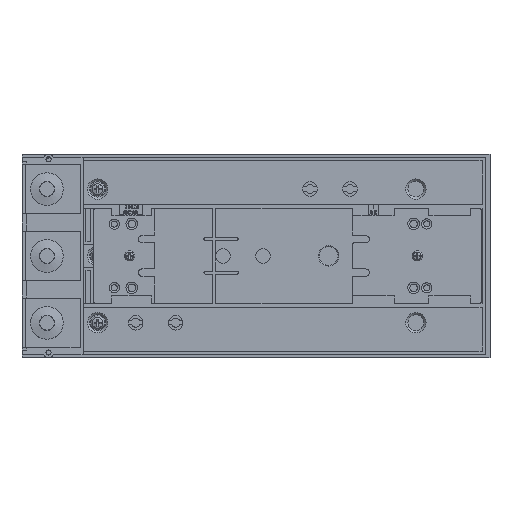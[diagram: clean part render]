
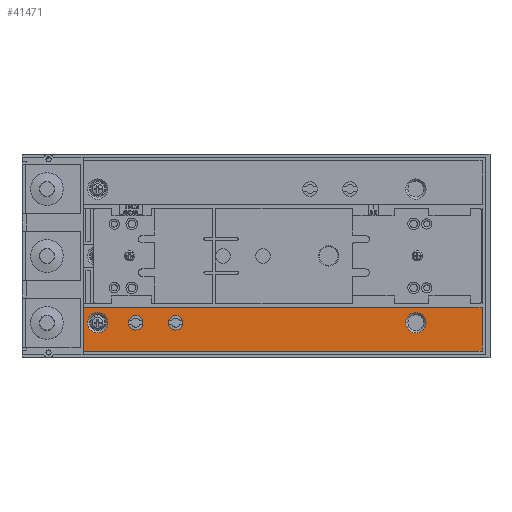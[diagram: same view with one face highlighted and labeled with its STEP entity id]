
A CAD part, top view. The second image highlights one B-rep face of the part: STEP entity #41471.
In plain terms, the highlighted planar face has unit normal (0, 0, 1).
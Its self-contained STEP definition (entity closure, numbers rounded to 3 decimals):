
#332 = CARTESIAN_POINT ( 'NONE',  ( -50.25, -46., 39.25 ) ) ;
#682 = CARTESIAN_POINT ( 'NONE',  ( 117., -46., 39.25 ) ) ;
#1195 = VERTEX_POINT ( 'NONE', #43297 ) ;
#1371 = VECTOR ( 'NONE', #11580, 1000. ) ;
#1403 = CARTESIAN_POINT ( 'NONE',  ( 0., 0., 39.25 ) ) ;
#1539 = LINE ( 'NONE', #43331, #10459 ) ;
#1596 = EDGE_LOOP ( 'NONE', ( #23551 ) ) ;
#2084 = AXIS2_PLACEMENT_3D ( 'NONE', #39743, #27799, #15336 ) ;
#2837 = DIRECTION ( 'NONE',  ( -1., 0., 0. ) ) ;
#3402 = CARTESIAN_POINT ( 'NONE',  ( 155.5, 0., 39.25 ) ) ;
#3784 = CARTESIAN_POINT ( 'NONE',  ( 155.5, -65.5, 39.25 ) ) ;
#5744 = LINE ( 'NONE', #37468, #30636 ) ;
#6371 = CARTESIAN_POINT ( 'NONE',  ( 155.5, -35.25, 39.25 ) ) ;
#6679 = CARTESIAN_POINT ( 'NONE',  ( 110., -46., 39.25 ) ) ;
#7982 = CARTESIAN_POINT ( 'NONE',  ( -119., 0., 39.25 ) ) ;
#8406 = FACE_BOUND ( 'NONE', #39872, .T. ) ;
#8926 = EDGE_LOOP ( 'NONE', ( #22780 ) ) ;
#9269 = DIRECTION ( 'NONE',  ( 0., 0., 1. ) ) ;
#9438 = VERTEX_POINT ( 'NONE', #332 ) ;
#9889 = EDGE_CURVE ( 'NONE', #1195, #45425, #25662, .T. ) ;
#10368 = VERTEX_POINT ( 'NONE', #6371 ) ;
#10459 = VECTOR ( 'NONE', #2837, 1000. ) ;
#10506 = CIRCLE ( 'NONE', #34942, 7. ) ;
#11580 = DIRECTION ( 'NONE',  ( 0., -1., 0. ) ) ;
#11600 = CARTESIAN_POINT ( 'NONE',  ( -55.25, -46., 39.25 ) ) ;
#11660 = DIRECTION ( 'NONE',  ( 0., 0., -1. ) ) ;
#11964 = CIRCLE ( 'NONE', #37640, 5. ) ;
#12084 = EDGE_CURVE ( 'NONE', #20313, #20313, #45803, .T. ) ;
#13747 = PLANE ( 'NONE',  #32127 ) ;
#14287 = EDGE_CURVE ( 'NONE', #10368, #1195, #1539, .T. ) ;
#15336 = DIRECTION ( 'NONE',  ( 1., 0., 0. ) ) ;
#16708 = FACE_OUTER_BOUND ( 'NONE', #25224, .T. ) ;
#20034 = DIRECTION ( 'NONE',  ( 0., 1., 0. ) ) ;
#20313 = VERTEX_POINT ( 'NONE', #37113 ) ;
#22480 = EDGE_CURVE ( 'NONE', #27286, #27286, #10506, .T. ) ;
#22686 = CARTESIAN_POINT ( 'NONE',  ( -119., -65.5, 39.25 ) ) ;
#22780 = ORIENTED_EDGE ( 'NONE', *, *, #22480, .T. ) ;
#23551 = ORIENTED_EDGE ( 'NONE', *, *, #46922, .T. ) ;
#25224 = EDGE_LOOP ( 'NONE', ( #35379, #43548, #40834, #41640 ) ) ;
#25662 = LINE ( 'NONE', #7982, #1371 ) ;
#27286 = VERTEX_POINT ( 'NONE', #682 ) ;
#27497 = DIRECTION ( 'NONE',  ( 1., 0., 0. ) ) ;
#27799 = DIRECTION ( 'NONE',  ( 0., 0., -1. ) ) ;
#27983 = DIRECTION ( 'NONE',  ( 1., 0., 0. ) ) ;
#28804 = FACE_BOUND ( 'NONE', #41845, .T. ) ;
#29055 = DIRECTION ( 'NONE',  ( 1., 0., 0. ) ) ;
#29464 = VECTOR ( 'NONE', #20034, 1000. ) ;
#29590 = DIRECTION ( 'NONE',  ( 1., 0., 0. ) ) ;
#30085 = CARTESIAN_POINT ( 'NONE',  ( -102., -46., 39.25 ) ) ;
#30636 = VECTOR ( 'NONE', #29055, 1000. ) ;
#30934 = EDGE_CURVE ( 'NONE', #9438, #9438, #11964, .T. ) ;
#31266 = AXIS2_PLACEMENT_3D ( 'NONE', #44082, #11660, #27497 ) ;
#32127 = AXIS2_PLACEMENT_3D ( 'NONE', #1403, #9269, #29590 ) ;
#33285 = FACE_BOUND ( 'NONE', #1596, .T. ) ;
#34350 = ORIENTED_EDGE ( 'NONE', *, *, #30934, .T. ) ;
#34942 = AXIS2_PLACEMENT_3D ( 'NONE', #6679, #39327, #51473 ) ;
#35379 = ORIENTED_EDGE ( 'NONE', *, *, #41337, .T. ) ;
#37113 = CARTESIAN_POINT ( 'NONE',  ( -77.75, -46., 39.25 ) ) ;
#37468 = CARTESIAN_POINT ( 'NONE',  ( 0., -65.5, 39.25 ) ) ;
#37640 = AXIS2_PLACEMENT_3D ( 'NONE', #11600, #44194, #27983 ) ;
#39327 = DIRECTION ( 'NONE',  ( 0., 0., -1. ) ) ;
#39743 = CARTESIAN_POINT ( 'NONE',  ( -82.75, -46., 39.25 ) ) ;
#39872 = EDGE_LOOP ( 'NONE', ( #34350 ) ) ;
#40834 = ORIENTED_EDGE ( 'NONE', *, *, #9889, .T. ) ;
#41337 = EDGE_CURVE ( 'NONE', #42854, #10368, #49922, .T. ) ;
#41471 = ADVANCED_FACE ( 'NONE', ( #8406, #28804, #33285, #42830, #16708 ), #13747, .T. ) ;
#41640 = ORIENTED_EDGE ( 'NONE', *, *, #49909, .T. ) ;
#41845 = EDGE_LOOP ( 'NONE', ( #45147 ) ) ;
#42830 = FACE_BOUND ( 'NONE', #8926, .T. ) ;
#42854 = VERTEX_POINT ( 'NONE', #3784 ) ;
#43297 = CARTESIAN_POINT ( 'NONE',  ( -119., -35.25, 39.25 ) ) ;
#43331 = CARTESIAN_POINT ( 'NONE',  ( 0., -35.25, 39.25 ) ) ;
#43548 = ORIENTED_EDGE ( 'NONE', *, *, #14287, .T. ) ;
#44082 = CARTESIAN_POINT ( 'NONE',  ( -109., -46., 39.25 ) ) ;
#44194 = DIRECTION ( 'NONE',  ( 0., 0., -1. ) ) ;
#45147 = ORIENTED_EDGE ( 'NONE', *, *, #12084, .T. ) ;
#45425 = VERTEX_POINT ( 'NONE', #22686 ) ;
#45803 = CIRCLE ( 'NONE', #2084, 5. ) ;
#46215 = CIRCLE ( 'NONE', #31266, 7. ) ;
#46922 = EDGE_CURVE ( 'NONE', #48945, #48945, #46215, .T. ) ;
#48945 = VERTEX_POINT ( 'NONE', #30085 ) ;
#49909 = EDGE_CURVE ( 'NONE', #45425, #42854, #5744, .T. ) ;
#49922 = LINE ( 'NONE', #3402, #29464 ) ;
#51473 = DIRECTION ( 'NONE',  ( 1., 0., 0. ) ) ;
